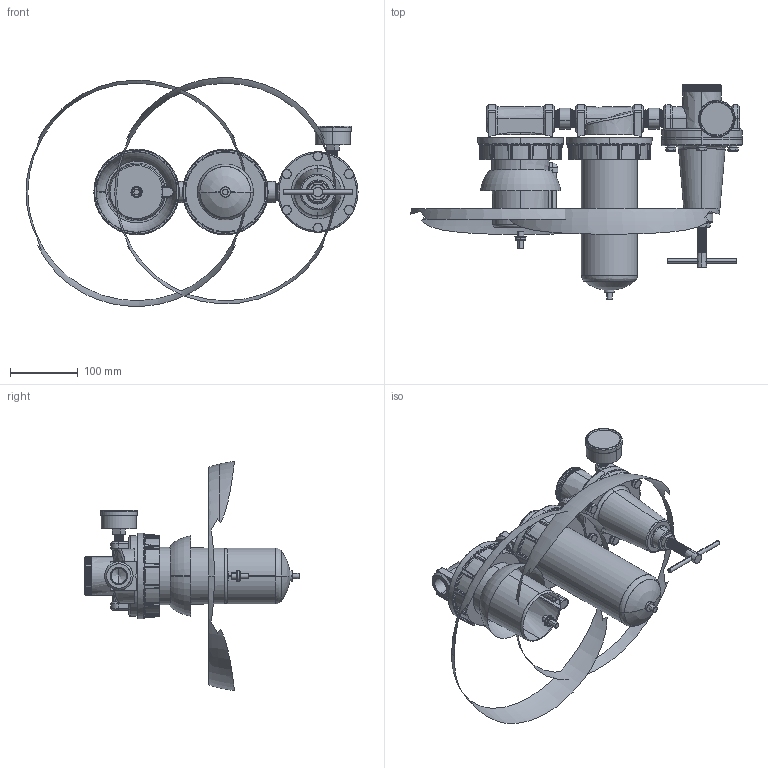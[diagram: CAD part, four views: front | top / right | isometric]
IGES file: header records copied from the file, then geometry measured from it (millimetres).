
Start section: SolidWorks IGES file using analytic representation for surfaces
Global section: file name: D:\Custom\3D繪製\FRL\FSR系列\C728#W#-06YB#.IGS; native system: SolidWorks 2014; preprocessor: SolidWorks 2014; author: Chieh_Lu; date: 160115.014141; units: millimetre
Bounding box: 489.98 x 316 x 338.09 mm (x, y, z)
Surface area: 407754.1 mm2 (no closed solid volume)
Topology: 0 solids, 0 shells, 1547 faces, 18408 edges, 18378 vertices
Faces by surface type: bspline 777, revolution 770
